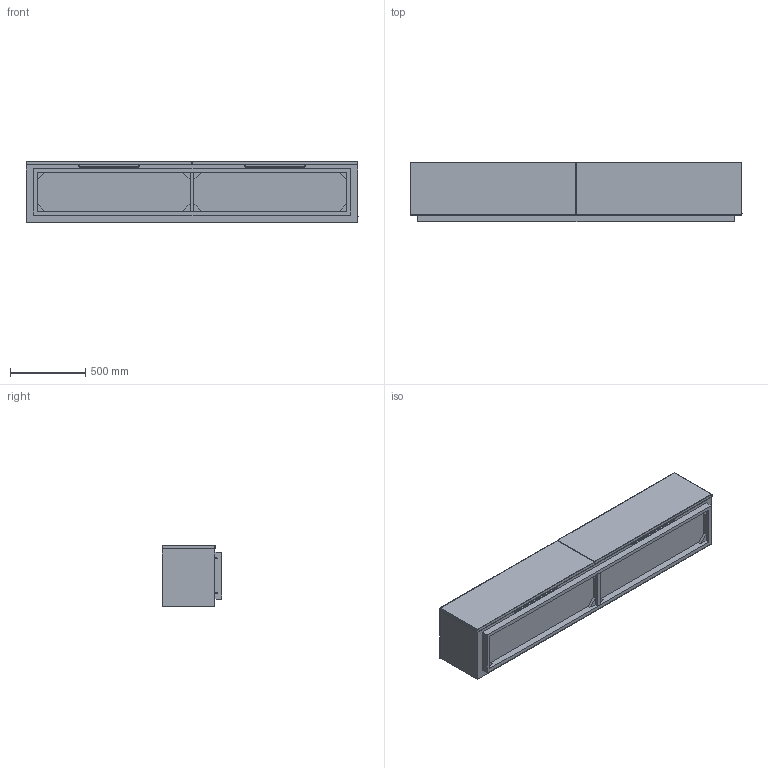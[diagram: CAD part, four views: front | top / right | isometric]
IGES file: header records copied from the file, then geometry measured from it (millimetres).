
Start section: SolidWorks IGES file using analytic representation for surfaces
Global section: file name: \\UTENTI\Dati Utenti\Tecnico\DC\2D - 3D per sito\3D\DeCastelli-3D-Tako Floor console 220.igs; native system: SolidWorks 2022; preprocessor: SolidWorks 2022; author: maria; date: 240725.084356; units: millimetre
Bounding box: 2200 x 393.5 x 405.5 mm (x, y, z)
Surface area: 6470647.9 mm2 (no closed solid volume)
Topology: 0 solids, 0 shells, 135 faces, 1262 edges, 1262 vertices
Faces by surface type: bspline 113, revolution 22
